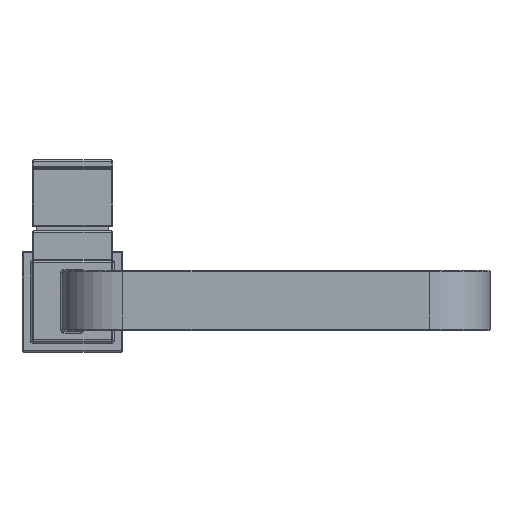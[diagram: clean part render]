
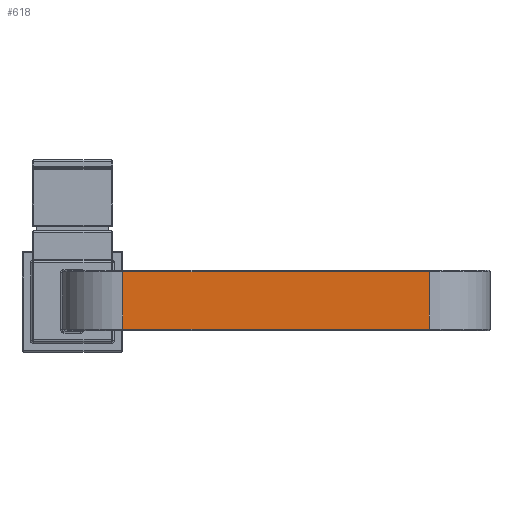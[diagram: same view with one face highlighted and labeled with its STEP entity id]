
A CAD part, top view. The second image highlights one B-rep face of the part: STEP entity #618.
In plain terms, the highlighted planar face has unit normal (0, 0, 1).
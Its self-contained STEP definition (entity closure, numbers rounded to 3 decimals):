
#283=CARTESIAN_POINT('Vertex',(177.,14.2,355.)) ;
#314=CARTESIAN_POINT('Vertex',(25.,14.2,355.)) ;
#317=CARTESIAN_POINT('Line Origine',(101.,14.2,355.)) ;
#569=CARTESIAN_POINT('Line Origine',(25.,0.,355.)) ;
#573=CARTESIAN_POINT('Vertex',(25.,-14.2,355.)) ;
#595=CARTESIAN_POINT('Axis2P3D Location',(25.,-15.,355.)) ;
#600=CARTESIAN_POINT('Line Origine',(101.,-14.2,355.)) ;
#604=CARTESIAN_POINT('Vertex',(177.,-14.2,355.)) ;
#607=CARTESIAN_POINT('Line Origine',(177.,0.,355.)) ;
#318=DIRECTION('Vector Direction',(1.,0.,0.)) ;
#570=DIRECTION('Vector Direction',(0.,1.,0.)) ;
#596=DIRECTION('Axis2P3D Direction',(0.,0.,-1.)) ;
#597=DIRECTION('Axis2P3D XDirection',(0.,1.,0.)) ;
#601=DIRECTION('Vector Direction',(-1.,0.,0.)) ;
#608=DIRECTION('Vector Direction',(0.,1.,0.)) ;
#598=AXIS2_PLACEMENT_3D('Plane Axis2P3D',#595,#596,#597) ;
#613=ORIENTED_EDGE('',*,*,#606,.T.) ;
#614=ORIENTED_EDGE('',*,*,#611,.F.) ;
#615=ORIENTED_EDGE('',*,*,#321,.T.) ;
#616=ORIENTED_EDGE('',*,*,#575,.T.) ;
#319=VECTOR('Line Direction',#318,1.) ;
#571=VECTOR('Line Direction',#570,1.) ;
#602=VECTOR('Line Direction',#601,1.) ;
#609=VECTOR('Line Direction',#608,1.) ;
#618=ADVANCED_FACE('PartBody',(#617),#599,.F.) ;
#321=EDGE_CURVE('',#284,#315,#320,.F.) ;
#575=EDGE_CURVE('',#315,#574,#572,.F.) ;
#606=EDGE_CURVE('',#574,#605,#603,.F.) ;
#611=EDGE_CURVE('',#284,#605,#610,.F.) ;
#612=EDGE_LOOP('',(#613,#614,#615,#616)) ;
#617=FACE_OUTER_BOUND('',#612,.T.) ;
#320=LINE('Line',#317,#319) ;
#572=LINE('Line',#569,#571) ;
#603=LINE('Line',#600,#602) ;
#610=LINE('Line',#607,#609) ;
#599=PLANE('',#598) ;
#284=VERTEX_POINT('',#283) ;
#315=VERTEX_POINT('',#314) ;
#574=VERTEX_POINT('',#573) ;
#605=VERTEX_POINT('',#604) ;
